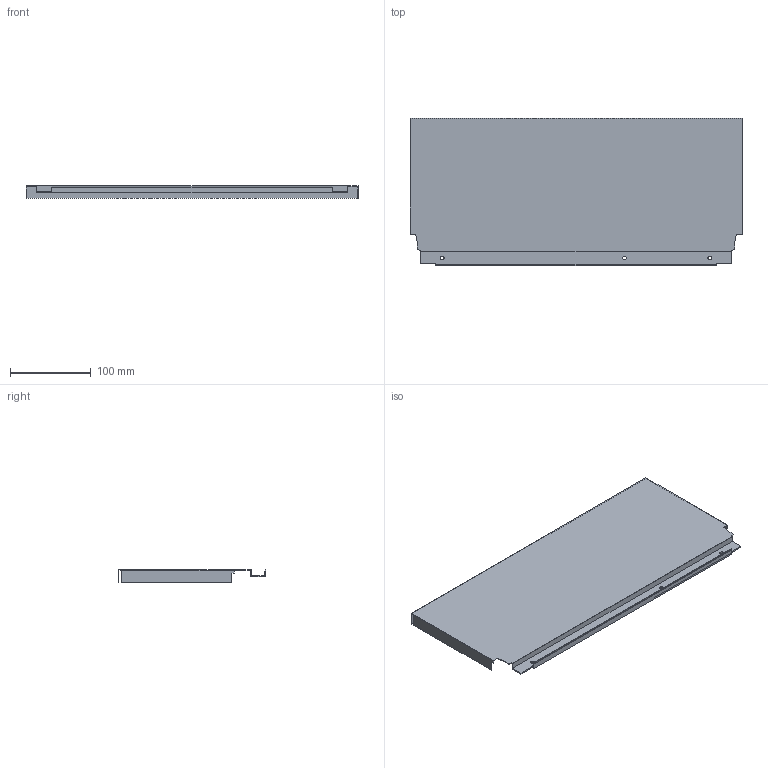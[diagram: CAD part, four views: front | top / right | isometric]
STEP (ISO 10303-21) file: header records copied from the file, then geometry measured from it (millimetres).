
FILE_DESCRIPTION (( 'STEP AP214' ), '1' );
FILE_NAME ('_DWD_XP Stahlrückwand_H182_KAB500_S19.step', '2010-07-08T12:58:05', ( 'grass' ), ( '' ), 'SwSTEP 2.0', 'SolidWorks 2010', '' );
FILE_SCHEMA (( 'AUTOMOTIVE_DESIGN' ));
Length unit declared in the file: millimetre
Products named in the file (1): _DWD_XP Stahlrückwand_H182_KAB500_S19
Bounding box: 411 x 182.49 x 16 mm (x, y, z)
Volume: 77843.2 mm3; surface area: 181060.9 mm2
Topology: 1 solids, 1 shells, 46 faces, 132 edges, 88 vertices
Faces by surface type: plane 40, cylinder 6
Entity records: 1534 total; most frequent: CARTESIAN_POINT 267, ORIENTED_EDGE 264, DIRECTION 238, EDGE_CURVE 132, LINE 120, VECTOR 120, VERTEX_POINT 88, AXIS2_PLACEMENT_3D 59
